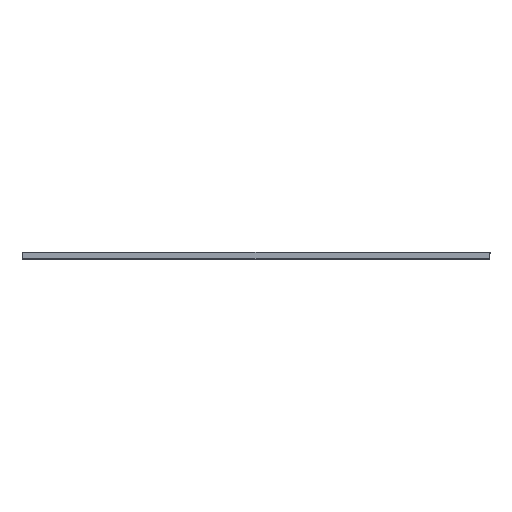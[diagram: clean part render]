
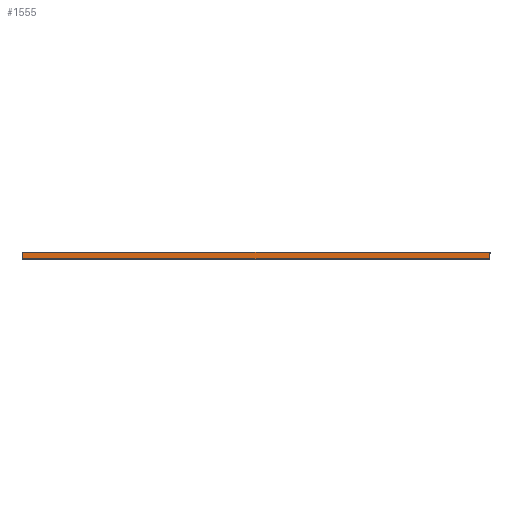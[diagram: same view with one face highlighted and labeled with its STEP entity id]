
A CAD part, front view. The second image highlights one B-rep face of the part: STEP entity #1555.
In plain terms, the highlighted planar face has unit normal (0, -1, 0).
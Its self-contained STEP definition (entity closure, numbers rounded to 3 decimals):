
#54 = VERTEX_POINT ( 'NONE', #2092 ) ;
#274 = CARTESIAN_POINT ( 'NONE',  ( 0., -890.5, 1.5 ) ) ;
#290 = ORIENTED_EDGE ( 'NONE', *, *, #368, .F. ) ;
#368 = EDGE_CURVE ( 'NONE', #574, #54, #869, .T. ) ;
#401 = DIRECTION ( 'NONE',  ( 0., -1., 0. ) ) ;
#418 = CARTESIAN_POINT ( 'NONE',  ( 694.929, -890.5, 19.5 ) ) ;
#533 = LINE ( 'NONE', #1767, #1455 ) ;
#574 = VERTEX_POINT ( 'NONE', #626 ) ;
#588 = DIRECTION ( 'NONE',  ( 0., 0., -1. ) ) ;
#626 = CARTESIAN_POINT ( 'NONE',  ( -694.929, -890.5, 1.5 ) ) ;
#627 = EDGE_CURVE ( 'NONE', #54, #1068, #2165, .T. ) ;
#669 = VECTOR ( 'NONE', #812, 1000. ) ;
#812 = DIRECTION ( 'NONE',  ( 1., 0., 0. ) ) ;
#822 = CARTESIAN_POINT ( 'NONE',  ( 693.5, -890.5, 19.5 ) ) ;
#869 = LINE ( 'NONE', #1057, #1646 ) ;
#880 = EDGE_CURVE ( 'NONE', #574, #2140, #992, .T. ) ;
#909 = EDGE_CURVE ( 'NONE', #2140, #1068, #533, .T. ) ;
#984 = ORIENTED_EDGE ( 'NONE', *, *, #909, .T. ) ;
#992 = LINE ( 'NONE', #274, #2115 ) ;
#1057 = CARTESIAN_POINT ( 'NONE',  ( -694.929, -890.5, 1.5 ) ) ;
#1068 = VERTEX_POINT ( 'NONE', #418 ) ;
#1073 = FACE_OUTER_BOUND ( 'NONE', #2003, .T. ) ;
#1093 = AXIS2_PLACEMENT_3D ( 'NONE', #2182, #401, #588 ) ;
#1187 = CARTESIAN_POINT ( 'NONE',  ( 694.929, -890.5, 1.5 ) ) ;
#1373 = DIRECTION ( 'NONE',  ( 0., 0., 1. ) ) ;
#1455 = VECTOR ( 'NONE', #1373, 1000. ) ;
#1483 = PLANE ( 'NONE',  #1093 ) ;
#1546 = DIRECTION ( 'NONE',  ( 1., 0., 0. ) ) ;
#1555 = ADVANCED_FACE ( 'NONE', ( #1073 ), #1483, .T. ) ;
#1646 = VECTOR ( 'NONE', #2309, 1000. ) ;
#1767 = CARTESIAN_POINT ( 'NONE',  ( 694.929, -890.5, 1.5 ) ) ;
#1844 = ORIENTED_EDGE ( 'NONE', *, *, #627, .F. ) ;
#2003 = EDGE_LOOP ( 'NONE', ( #1844, #290, #2157, #984 ) ) ;
#2092 = CARTESIAN_POINT ( 'NONE',  ( -694.929, -890.5, 19.5 ) ) ;
#2115 = VECTOR ( 'NONE', #1546, 1000. ) ;
#2140 = VERTEX_POINT ( 'NONE', #1187 ) ;
#2157 = ORIENTED_EDGE ( 'NONE', *, *, #880, .T. ) ;
#2165 = LINE ( 'NONE', #822, #669 ) ;
#2182 = CARTESIAN_POINT ( 'NONE',  ( 0., -890.5, 0. ) ) ;
#2309 = DIRECTION ( 'NONE',  ( 0., 0., 1. ) ) ;
